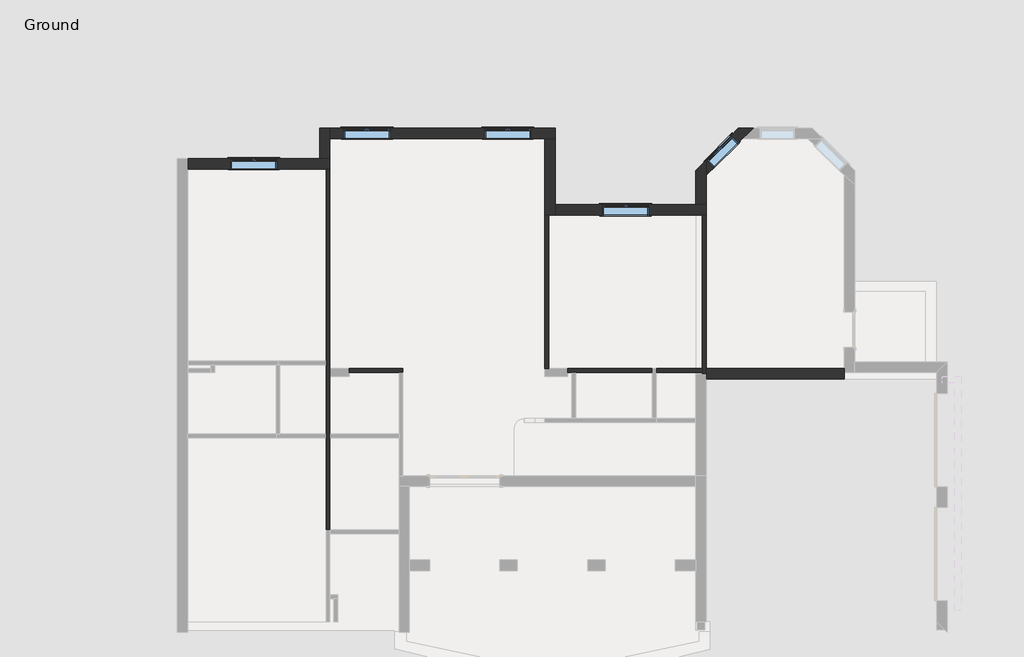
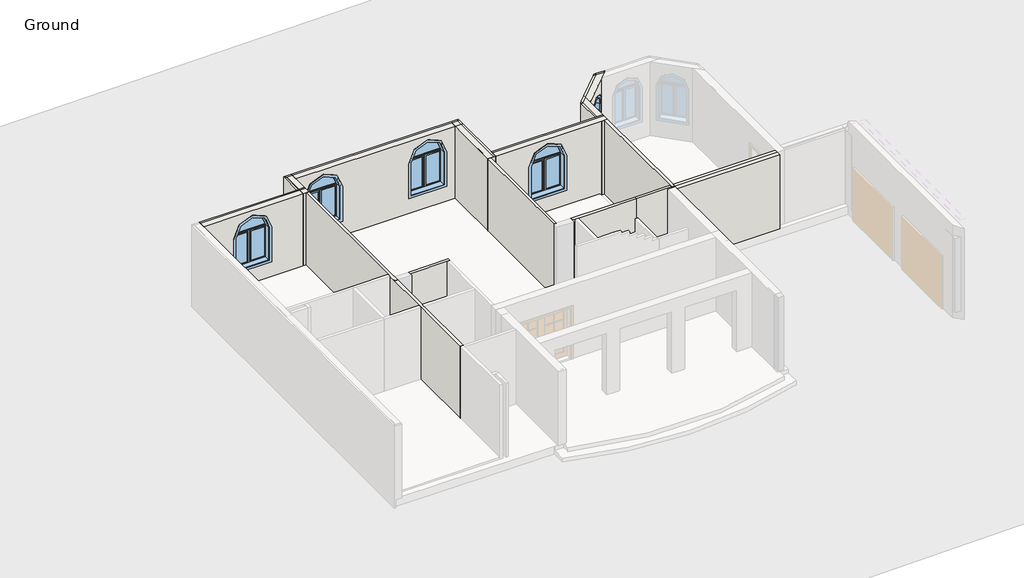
# One storey, part 2 of 3: 14 walls, 5 windows.
"""IFC4 building model written with IfcOpenShell, lengths in millimetres."""

from ifc_helpers import new_model, si_unit, frame, origin, origin_with_axes, place, context, project, spatial, polyline, circle_curve, ellipse_curve, outline, extrude, faceted_brep, transform, mapped, element, save
from ifc_brep_helpers import plane_surface, revolved_surface, advanced_brep
from components import window_0915_x_1220mm_3bb93231, window_1220_x_1220mm_cc1a8abd

model = new_model("IFC4")

# Units and contexts
model_context = context("Model", 3, world=origin())
ifc_project = project(units=[si_unit("LENGTHUNIT", "METRE", prefix="MILLI")], contexts=[model_context])

# Site, building, storey
site = spatial("IfcSite", under=ifc_project)
building = spatial("IfcBuilding", under=site)
storey = spatial("IfcBuildingStorey", under=building, Name="Ground", Elevation=0.0)

# Walls
placement = place(None, origin())
element("IfcWall", 1, ObjectType="Generic - 270 mm", at=placement, inside=storey, context=model_context, shape_type="AdvancedBrep", body=[
    advanced_brep(
    [(-7617.081946, 5504.8340505, 0.0), (-4017.081946, 5504.8340505, 0.0), (-3917.081946, 5504.8340505, 0.0), (-3917.081946, 5504.8340505, 2750.0), (-4017.081946, 5504.8340505, 2750.0), (-7617.081946, 5504.8340505, 2750.0), (-5292.081946, 5504.8340505, 1919.05), (-5292.081946, 5504.8340505, 680.0), (-6512.081946, 5504.8340505, 680.0), (-6512.081946, 5504.8340505, 1919.05), (-7617.081946, 5774.8340505, 2750.0), (-4187.081946, 5774.8340505, 2750.0), (-3917.081946, 5774.8340505, 2750.0), (-3917.081946, 5774.8340505, 0.0), (-4132.081946, 5774.8340505, 0.0), (-4132.081946, 5774.8340505, -300.0), (-4187.081946, 5774.8340505, -300.0), (-7832.081946, 5774.8340505, -300.0), (-7832.081946, 5774.8340505, 0.0), (-7617.081946, 5774.8340505, 0.0), (-5292.081946, 5774.8340505, 680.0), (-5292.081946, 5774.8340505, 1919.05), (-6512.081946, 5774.8340505, 1919.05), (-6512.081946, 5774.8340505, 680.0), (-7617.081946, 5719.8340505, 2750.0), (-7617.081946, 5719.8340505, 0.0), (-3917.081946, 5719.8340505, 2750.0), (-4132.081946, 5719.8340505, 2750.0), (-4132.081946, 5719.8340505, 0.0), (-7832.081946, 5719.8340505, 0.0), (-7832.081946, 5719.8340505, -300.0), (-4132.081946, 5719.8340505, -300.0)],
    [
        (0, 1),
        (1, 2),
        (2, 3),
        (3, 4),
        (4, 5),
        (5, 0),
        (6, 7),
        (7, 8),
        (8, 9),
        (9, 6, circle_curve(frame((-5902.081946, 5504.8340505, 1919.05), z_axis=(0.0, 1.0, 0.0), x_axis=(1.0, 0.0, 0.0)), 610.0)),
        (10, 11),
        (11, 12),
        (12, 13),
        (13, 14),
        (14, 15),
        (15, 16),
        (16, 17),
        (17, 18),
        (18, 19),
        (19, 10),
        (20, 21),
        (21, 22, circle_curve(frame((-5902.081946, 5774.8340505, 1919.05), z_axis=(0.0, -1.0, 0.0), x_axis=(1.0, 0.0, 0.0)), 610.0)),
        (22, 23),
        (23, 20),
        (5, 24),
        (24, 10),
        (19, 25),
        (25, 0),
        (2, 13),
        (12, 26),
        (26, 3),
        (24, 27),
        (27, 26),
        (25, 28),
        (28, 14),
        (25, 29),
        (29, 30),
        (30, 31),
        (31, 28),
        (30, 17),
        (15, 31),
        (18, 29),
        (6, 21),
        (20, 7),
        (23, 8),
        (22, 9),
    ],
    [
        plane_surface(frame((-7887.081946, 5504.8340505, 0.0), z_axis=(0.0, -1.0, 0.0), x_axis=(1.0, 0.0, 0.0))),
        plane_surface(frame((-7887.081946, 5774.8340505, 0.0), z_axis=(0.0, 1.0, 0.0), x_axis=(-1.0, 0.0, 0.0))),
        plane_surface(frame((-7617.081946, -6565.1659495, 0.0), z_axis=(-1.0, 0.0, 0.0), x_axis=(0.0, 1.0, 0.0))),
        plane_surface(frame((-3917.081946, 5774.8340505, 0.0), z_axis=(1.0, 0.0, 0.0), x_axis=(0.0, 1.0, 0.0))),
        plane_surface(frame((-4052.081946, 5504.8340505, 2750.0), z_axis=(0.0, 0.0, 1.0), x_axis=(0.0, 1.0, 0.0))),
        plane_surface(frame((-7832.081946, 5719.8340505, 2750.0), z_axis=(0.0, 0.0, 1.0), x_axis=(1.0, 0.0, 0.0))),
        plane_surface(frame((-7752.081946, 5504.8340505, 0.0), z_axis=(0.0, 0.0, -1.0), x_axis=(0.0, 1.0, 0.0))),
        plane_surface(frame((-7752.081946, 5719.8340505, 0.0), z_axis=(0.0, -1.0, 0.0), x_axis=(1.0, 0.0, 0.0))),
        plane_surface(frame((0.0, 0.0, -300.0), z_axis=(0.0, 0.0, -1.0), x_axis=(1.0, 0.0, 0.0))),
        plane_surface(frame((-7752.081946, 5719.8340505, 0.0), z_axis=(0.0, 0.0, 1.0), x_axis=(1.0, 0.0, 0.0))),
        plane_surface(frame((-7832.081946, 5719.8340505, -300.0), z_axis=(-1.0, 0.0, 0.0), x_axis=(0.0, 0.0, 1.0))),
        plane_surface(frame((-5292.081946, 7028.8340505, 1919.05), z_axis=(-1.0, 0.0, 0.0), x_axis=(0.0, -1.0, 0.0))),
        plane_surface(frame((-5292.081946, 7028.8340505, 680.0), z_axis=(0.0, 0.0, 1.0), x_axis=(0.0, -1.0, 0.0))),
        plane_surface(frame((-6512.081946, 7028.8340505, 680.0), z_axis=(1.0, 0.0, 0.0), x_axis=(0.0, -1.0, 0.0))),
        revolved_surface(polyline([(-5292.081946, 5774.8340505, 1919.05), (-5292.081946, 5504.8340505, 1919.05)]), (-5902.081946, 3980.8340505, 1919.05), (0.0, 1.0, 0.0)),
        plane_surface(frame((-4132.081946, 5719.8340505, -300.0), z_axis=(1.0, 0.0, 0.0), x_axis=(0.0, 0.0, 1.0))),
    ],
    [
        (0, [[1, 2, 3, 4, 5, 6], [7, 8, 9, 10]]),
        (1, [[11, 12, 13, 14, 15, 16, 17, 18, 19, 20], [21, 22, 23, 24]]),
        (2, [[-6, 25, 26, -20, 27, 28]]),
        (3, [[-3, 29, -13, 30, 31]]),
        (4, [[-12, -11, -26, 32, 33, -30]]),
        (5, [[-25, -5, -4, -31, -33, -32]]),
        (6, [[-2, -1, -28, 34, 35, -14, -29]]),
        (7, [[36, 37, 38, 39, -34]]),
        (8, [[40, -17, -16, 41, -38]]),
        (9, [[-36, -27, -19, 42]]),
        (10, [[-40, -37, -42, -18]]),
        (11, [[43, -21, 44, -7]]),
        (12, [[-44, -24, 45, -8]]),
        (13, [[-45, -23, 46, -9]]),
        (14, [[-43, -10, -46, -22]]),
        (15, [[-35, -39, -41, -15]]),
    ],
),
])
element("IfcWall", 2, ObjectType="Generic - 270 mm", at=placement, inside=storey, context=model_context, shape_type="Brep", body=[
    faceted_brep([(-3917.081946, 5774.8340505, 2750.0), (-3917.081946, 5774.8340505, 0.0), (-3917.081946, 6304.8340505, 0.0), (-3917.081946, 6519.8340505, 0.0), (-3917.081946, 6574.8340505, 0.0), (-3917.081946, 6574.8340505, 2750.0), (-3917.081946, 6519.8340505, 2750.0), (-3917.081946, 6304.8340505, 2750.0), (-4187.081946, 5774.8340505, -300.0), (-4187.081946, 5774.8340505, 2750.0), (-4187.081946, 6519.8340505, 2750.0), (-4187.081946, 6574.8340505, 2750.0), (-4187.081946, 6574.8340505, -300.0), (-4132.081946, 5774.8340505, 2750.0), (-4132.081946, 5774.8340505, -300.0), (-4132.081946, 5774.8340505, 0.0), (-4132.081946, 6574.8340505, 0.0), (-4132.081946, 6574.8340505, -300.0), (-4132.081946, 6574.8340505, 2750.0), (-4132.081946, 6519.8340505, 2750.0), (-4132.081946, 6519.8340505, 0.0), (-4132.081946, 6519.8340505, -300.0)], [[[0, 1, 2, 3, 4, 5, 6, 7]], [[8, 9, 10, 11, 12]], [[1, 0, 13, 9, 8, 14, 15]], [[5, 4, 16, 17, 12, 11, 18]], [[5, 18, 19, 6]], [[9, 13, 19, 10]], [[18, 11, 10, 19]], [[0, 7, 6, 19, 13]], [[16, 4, 3, 2, 1, 15, 20]], [[15, 14, 21, 17, 16, 20]], [[14, 8, 12, 17, 21]]]),
])
element("IfcWall", 3, ObjectType="Generic - 270 mm", at=placement, inside=storey, context=model_context, shape_type="AdvancedBrep", body=[
    advanced_brep(
    [(-3917.081946, 6304.8340505, 2750.0), (-3917.081946, 6304.8340505, 0.0), (1682.918054, 6304.8340505, 0.0), (1897.918054, 6304.8340505, 0.0), (1952.918054, 6304.8340505, 0.0), (1952.918054, 6304.8340505, 2750.0), (1897.918054, 6304.8340505, 2750.0), (1682.918054, 6304.8340505, 2750.0), (1327.918054, 6304.8340505, 1919.05), (1327.918054, 6304.8340505, 680.0), (107.918054, 6304.8340505, 680.0), (107.918054, 6304.8340505, 1919.05), (-2342.081946, 6304.8340505, 1919.05), (-2342.081946, 6304.8340505, 680.0), (-3562.081946, 6304.8340505, 680.0), (-3562.081946, 6304.8340505, 1919.05), (1952.918054, 6574.8340505, 2750.0), (1952.918054, 6574.8340505, -300.0), (-4132.081946, 6574.8340505, -300.0), (-4132.081946, 6574.8340505, 0.0), (-3917.081946, 6574.8340505, 0.0), (-3917.081946, 6574.8340505, 2750.0), (1897.918054, 6574.8340505, 2750.0), (1327.918054, 6574.8340505, 680.0), (1327.918054, 6574.8340505, 1919.05), (107.918054, 6574.8340505, 1919.05), (107.918054, 6574.8340505, 680.0), (-2342.081946, 6574.8340505, 680.0), (-2342.081946, 6574.8340505, 1919.05), (-3562.081946, 6574.8340505, 1919.05), (-3562.081946, 6574.8340505, 680.0), (-3917.081946, 6519.8340505, 2750.0), (-3917.081946, 6519.8340505, 0.0), (1952.918054, 6519.8340505, 0.0), (1952.918054, 6519.8340505, -300.0), (1952.918054, 6519.8340505, 2750.0), (1897.918054, 6519.8340505, 2750.0), (1897.918054, 6519.8340505, 0.0), (-4132.081946, 6519.8340505, 0.0), (-4132.081946, 6519.8340505, -300.0), (1897.918054, 6519.8340505, -300.0)],
    [
        (0, 1),
        (1, 2),
        (2, 3),
        (3, 4),
        (4, 5),
        (5, 6),
        (6, 7),
        (7, 0),
        (8, 9),
        (9, 10),
        (10, 11),
        (11, 8, circle_curve(frame((717.918054, 6304.8340505, 1919.05), z_axis=(0.0, 1.0, 0.0), x_axis=(1.0, 0.0, 0.0)), 610.0)),
        (12, 13),
        (13, 14),
        (14, 15),
        (15, 12, circle_curve(frame((-2952.081946, 6304.8340505, 1919.05), z_axis=(0.0, 1.0, 0.0), x_axis=(1.0, 0.0, 0.0)), 610.0)),
        (16, 17),
        (17, 18),
        (18, 19),
        (19, 20),
        (20, 21),
        (21, 22),
        (22, 16),
        (23, 24),
        (24, 25, circle_curve(frame((717.918054, 6574.8340505, 1919.05), z_axis=(0.0, -1.0, 0.0), x_axis=(1.0, 0.0, 0.0)), 610.0)),
        (25, 26),
        (26, 23),
        (27, 28),
        (28, 29, circle_curve(frame((-2952.081946, 6574.8340505, 1919.05), z_axis=(0.0, -1.0, 0.0), x_axis=(1.0, 0.0, 0.0)), 610.0)),
        (29, 30),
        (30, 27),
        (0, 31),
        (31, 21),
        (20, 32),
        (32, 1),
        (4, 33),
        (33, 34),
        (34, 17),
        (16, 35),
        (35, 5),
        (35, 36),
        (36, 6),
        (31, 36),
        (36, 22),
        (32, 37),
        (37, 33),
        (32, 38),
        (38, 39),
        (39, 40),
        (40, 34),
        (39, 18),
        (19, 38),
        (8, 24),
        (23, 9),
        (26, 10),
        (25, 11),
        (12, 28),
        (27, 13),
        (30, 14),
        (29, 15),
    ],
    [
        plane_surface(frame((-4187.081946, 6304.8340505, 0.0), z_axis=(0.0, -1.0, 0.0), x_axis=(1.0, 0.0, 0.0))),
        plane_surface(frame((-4187.081946, 6574.8340505, 0.0), z_axis=(0.0, 1.0, 0.0), x_axis=(-1.0, 0.0, 0.0))),
        plane_surface(frame((-3917.081946, 5774.8340505, 0.0), z_axis=(-1.0, 0.0, 0.0), x_axis=(0.0, 1.0, 0.0))),
        plane_surface(frame((1952.918054, 6574.8340505, 0.0), z_axis=(1.0, 0.0, 0.0), x_axis=(0.0, 1.0, 0.0))),
        plane_surface(frame((1817.918054, 6304.8340505, 2750.0), z_axis=(0.0, 0.0, 1.0), x_axis=(0.0, 1.0, 0.0))),
        plane_surface(frame((-7832.081946, 5719.8340505, 2750.0), z_axis=(0.0, 0.0, 1.0), x_axis=(1.0, 0.0, 0.0))),
        plane_surface(frame((-4052.081946, 6304.8340505, 0.0), z_axis=(0.0, 0.0, -1.0), x_axis=(0.0, 1.0, 0.0))),
        plane_surface(frame((-4052.081946, 6519.8340505, 0.0), z_axis=(0.0, -1.0, 0.0), x_axis=(1.0, 0.0, 0.0))),
        plane_surface(frame((0.0, 0.0, -300.0), z_axis=(0.0, 0.0, -1.0), x_axis=(1.0, 0.0, 0.0))),
        plane_surface(frame((-4052.081946, 6519.8340505, 0.0), z_axis=(0.0, 0.0, 1.0), x_axis=(1.0, 0.0, 0.0))),
        plane_surface(frame((-4132.081946, 6519.8340505, -300.0), z_axis=(-1.0, 0.0, 0.0), x_axis=(0.0, 0.0, 1.0))),
        plane_surface(frame((1327.918054, 7828.8340505, 1919.05), z_axis=(-1.0, 0.0, 0.0), x_axis=(0.0, -1.0, 0.0))),
        plane_surface(frame((1327.918054, 7828.8340505, 680.0), z_axis=(0.0, 0.0, 1.0), x_axis=(0.0, -1.0, 0.0))),
        plane_surface(frame((107.918054, 7828.8340505, 680.0), z_axis=(1.0, 0.0, 0.0), x_axis=(0.0, -1.0, 0.0))),
        revolved_surface(polyline([(1327.918054, 6574.8340505, 1919.05), (1327.918054, 6304.8340505, 1919.05)]), (717.918054, 4780.8340505, 1919.05), (0.0, 1.0, 0.0)),
        plane_surface(frame((-2342.081946, 7828.8340505, 1919.05), z_axis=(-1.0, 0.0, 0.0), x_axis=(0.0, -1.0, 0.0))),
        plane_surface(frame((-2342.081946, 7828.8340505, 680.0), z_axis=(0.0, 0.0, 1.0), x_axis=(0.0, -1.0, 0.0))),
        plane_surface(frame((-3562.081946, 7828.8340505, 680.0), z_axis=(1.0, 0.0, 0.0), x_axis=(0.0, -1.0, 0.0))),
        revolved_surface(polyline([(-2342.081946, 6574.8340505, 1919.05), (-2342.081946, 6304.8340505, 1919.05)]), (-2952.081946, 4780.8340505, 1919.05), (0.0, 1.0, 0.0)),
    ],
    [
        (0, [[1, 2, 3, 4, 5, 6, 7, 8], [9, 10, 11, 12], [13, 14, 15, 16]]),
        (1, [[17, 18, 19, 20, 21, 22, 23], [24, 25, 26, 27], [28, 29, 30, 31]]),
        (2, [[-1, 32, 33, -21, 34, 35]]),
        (3, [[-5, 36, 37, 38, -17, 39, 40]]),
        (4, [[-40, 41, 42, -6]]),
        (4, [[-33, 43, 44, -22]]),
        (4, [[-39, -23, -44, -41]]),
        (5, [[-8, -7, -42, -43, -32]]),
        (6, [[-36, -4, -3, -2, -35, 45, 46]]),
        (7, [[-37, -46, -45, 47, 48, 49, 50]]),
        (8, [[-38, -50, -49, 51, -18]]),
        (9, [[-47, -34, -20, 52]]),
        (10, [[-51, -48, -52, -19]]),
        (11, [[53, -24, 54, -9]]),
        (12, [[-54, -27, 55, -10]]),
        (13, [[-55, -26, 56, -11]]),
        (14, [[-53, -12, -56, -25]]),
        (15, [[57, -28, 58, -13]]),
        (16, [[-58, -31, 59, -14]]),
        (17, [[-59, -30, 60, -15]]),
        (18, [[-57, -16, -60, -29]]),
    ],
),
])
element("IfcWall", 4, ObjectType="Generic - 270 mm", at=placement, inside=storey, context=model_context, shape_type="Brep", body=[
    faceted_brep([(1682.918054, 6304.8340505, 0.0), (1682.918054, 4304.8340505, 0.0), (1682.918054, 4304.8340505, 2750.0), (1682.918054, 6304.8340505, 2750.0), (1952.918054, 6304.8340505, 2750.0), (1952.918054, 4574.8340505, 2750.0), (1952.918054, 4519.8340505, 2750.0), (1952.918054, 4304.8340505, 2750.0), (1952.918054, 4304.8340505, 0.0), (1952.918054, 4519.8340505, 0.0), (1952.918054, 4519.8340505, -300.0), (1952.918054, 4574.8340505, -300.0), (1952.918054, 6519.8340505, -300.0), (1952.918054, 6519.8340505, 0.0), (1952.918054, 6304.8340505, 0.0), (1897.918054, 6304.8340505, 2750.0), (1897.918054, 6304.8340505, 0.0), (1782.918054, 4304.8340505, 0.0), (1897.918054, 4304.8340505, 2750.0), (1782.918054, 4304.8340505, 2750.0), (1897.918054, 4519.8340505, 2750.0), (1897.918054, 4519.8340505, 0.0), (1897.918054, 6519.8340505, 0.0), (1897.918054, 6519.8340505, -300.0), (1897.918054, 4519.8340505, -300.0)], [[[0, 1, 2, 3]], [[4, 5, 6, 7, 8, 9, 10, 11, 12, 13, 14]], [[0, 3, 15, 4, 14, 16]], [[2, 1, 17, 8, 7, 18, 19]], [[7, 6, 5, 4, 15, 20, 18]], [[15, 3, 2, 19, 18, 20]], [[1, 0, 16, 21, 9, 8, 17]], [[16, 22, 23, 24, 21]], [[23, 12, 11, 10, 24]], [[22, 16, 14, 13]], [[12, 23, 22, 13]], [[9, 21, 24, 10]]]),
])
element("IfcWall", 5, ObjectType="Generic - 270 mm", at=placement, inside=storey, context=model_context, shape_type="AdvancedBrep", body=[
    advanced_brep(
    [(1952.918054, 4304.8340505, 0.0), (5781.043054, 4304.8340505, 0.0), (5881.043054, 4304.8340505, 0.0), (5882.918054, 4304.8340505, 0.0), (5882.918054, 4304.8340505, 2750.0), (5881.043054, 4304.8340505, 2750.0), (5781.043054, 4304.8340505, 2750.0), (1952.918054, 4304.8340505, 2750.0), (4392.918054, 4304.8340505, 1919.05), (4392.918054, 4304.8340505, 680.0), (3172.918054, 4304.8340505, 680.0), (3172.918054, 4304.8340505, 1919.05), (1952.918054, 4574.8340505, 2750.0), (5612.918054, 4574.8340505, 2750.0), (5882.918054, 4574.8340505, 2750.0), (5882.918054, 4574.8340505, 0.0), (5667.918054, 4574.8340505, 0.0), (5667.918054, 4574.8340505, -300.0), (5612.918054, 4574.8340505, -300.0), (1952.918054, 4574.8340505, -300.0), (4392.918054, 4574.8340505, 680.0), (4392.918054, 4574.8340505, 1919.05), (3172.918054, 4574.8340505, 1919.05), (3172.918054, 4574.8340505, 680.0), (1952.918054, 4519.8340505, 2750.0), (1952.918054, 4519.8340505, -300.0), (1952.918054, 4519.8340505, 0.0), (5882.918054, 4519.8340505, 2750.0), (5667.918054, 4519.8340505, 2750.0), (5667.918054, 4519.8340505, 0.0), (5667.918054, 4519.8340505, -300.0)],
    [
        (0, 1),
        (1, 2),
        (2, 3),
        (3, 4),
        (4, 5),
        (5, 6),
        (6, 7),
        (7, 0),
        (8, 9),
        (9, 10),
        (10, 11),
        (11, 8, circle_curve(frame((3782.918054, 4304.8340505, 1919.05), z_axis=(0.0, 1.0, 0.0), x_axis=(1.0, 0.0, 0.0)), 610.0)),
        (12, 13),
        (13, 14),
        (14, 15),
        (15, 16),
        (16, 17),
        (17, 18),
        (18, 19),
        (19, 12),
        (20, 21),
        (21, 22, circle_curve(frame((3782.918054, 4574.8340505, 1919.05), z_axis=(0.0, -1.0, 0.0), x_axis=(1.0, 0.0, 0.0)), 610.0)),
        (22, 23),
        (23, 20),
        (7, 24),
        (24, 12),
        (19, 25),
        (25, 26),
        (26, 0),
        (3, 15),
        (14, 27),
        (27, 4),
        (24, 28),
        (28, 27),
        (26, 29),
        (29, 16),
        (25, 30),
        (30, 29),
        (17, 30),
        (8, 21),
        (20, 9),
        (23, 10),
        (22, 11),
    ],
    [
        plane_surface(frame((1952.918054, 4304.8340505, 0.0), z_axis=(0.0, -1.0, 0.0), x_axis=(1.0, 0.0, 0.0))),
        plane_surface(frame((1952.918054, 4574.8340505, 0.0), z_axis=(0.0, 1.0, 0.0), x_axis=(-1.0, 0.0, 0.0))),
        plane_surface(frame((1952.918054, 6574.8340505, 0.0), z_axis=(-1.0, 0.0, 0.0), x_axis=(0.0, 1.0, 0.0))),
        plane_surface(frame((5882.918054, 4574.8340505, 0.0), z_axis=(1.0, 0.0, 0.0), x_axis=(0.0, 1.0, 0.0))),
        plane_surface(frame((5747.918054, 4304.8340505, 2750.0), z_axis=(0.0, 0.0, 1.0), x_axis=(0.0, 1.0, 0.0))),
        plane_surface(frame((-7832.081946, 5719.8340505, 2750.0), z_axis=(0.0, 0.0, 1.0), x_axis=(1.0, 0.0, 0.0))),
        plane_surface(frame((1817.918054, 4304.8340505, 0.0), z_axis=(0.0, 0.0, -1.0), x_axis=(0.0, 1.0, 0.0))),
        plane_surface(frame((1817.918054, 4519.8340505, 0.0), z_axis=(0.0, -1.0, 0.0), x_axis=(1.0, 0.0, 0.0))),
        plane_surface(frame((0.0, 0.0, -300.0), z_axis=(0.0, 0.0, -1.0), x_axis=(1.0, 0.0, 0.0))),
        plane_surface(frame((4392.918054, 5828.8340505, 1919.05), z_axis=(-1.0, 0.0, 0.0), x_axis=(0.0, -1.0, 0.0))),
        plane_surface(frame((4392.918054, 5828.8340505, 680.0), z_axis=(0.0, 0.0, 1.0), x_axis=(0.0, -1.0, 0.0))),
        plane_surface(frame((3172.918054, 5828.8340505, 680.0), z_axis=(1.0, 0.0, 0.0), x_axis=(0.0, -1.0, 0.0))),
        revolved_surface(polyline([(4392.918054, 4574.8340505, 1919.05), (4392.918054, 4304.8340505, 1919.05)]), (3782.918054, 2780.8340505, 1919.05), (0.0, 1.0, 0.0)),
        plane_surface(frame((5667.918054, 4519.8340505, -300.0), z_axis=(1.0, 0.0, 0.0), x_axis=(0.0, 0.0, 1.0))),
    ],
    [
        (0, [[1, 2, 3, 4, 5, 6, 7, 8], [9, 10, 11, 12]]),
        (1, [[13, 14, 15, 16, 17, 18, 19, 20], [21, 22, 23, 24]]),
        (2, [[-8, 25, 26, -20, 27, 28, 29]]),
        (3, [[-4, 30, -15, 31, 32]]),
        (4, [[-14, -13, -26, 33, 34, -31]]),
        (5, [[-25, -7, -6, -5, -32, -34, -33]]),
        (6, [[-3, -2, -1, -29, 35, 36, -16, -30]]),
        (7, [[-28, 37, 38, -35]]),
        (8, [[-27, -19, -18, 39, -37]]),
        (9, [[40, -21, 41, -9]]),
        (10, [[-41, -24, 42, -10]]),
        (11, [[-42, -23, 43, -11]]),
        (12, [[-40, -12, -43, -22]]),
        (13, [[-36, -38, -39, -17]]),
    ],
),
])
element("IfcWall", 6, ObjectType="Generic - 270 mm", at=placement, inside=storey, context=model_context, shape_type="AdvancedBrep", body=[
    advanced_brep(
    [(5882.918054, 4574.8340505, 2750.0), (5882.918054, 4574.8340505, 0.0), (5882.918054, 5353.362188, 0.0), (5882.918054, 5657.4181039, 0.0), (5882.918054, 5735.1998498, 0.0), (5882.918054, 5735.1998498, 680.0), (5882.918054, 5732.8594181, 680.0), (5882.918054, 5732.8594181, 1919.05), (5882.918054, 5735.1998498, 1957.928359), (5882.918054, 5735.1998498, 2750.0), (5882.918054, 5657.4181039, 2750.0), (5882.918054, 5353.362188, 2750.0), (5612.918054, 4574.8340505, -300.0), (5612.918054, 4574.8340505, 2750.0), (5612.918054, 5387.4181039, 2750.0), (5612.918054, 5465.1998498, 2750.0), (5612.918054, 5465.1998498, -300.0), (5667.918054, 4574.8340505, 2750.0), (5667.918054, 4574.8340505, -300.0), (5667.918054, 4574.8340505, 0.0), (5667.918054, 5520.1998498, 2750.0), (5881.7478382, 5734.029634, 1919.05), (5881.7478382, 5734.029634, 680.0), (5667.918054, 5520.1998498, 0.0), (5667.918054, 5520.1998498, -300.0), (5667.918054, 5442.4181039, 2750.0), (5667.918054, 5442.4181039, 0.0), (5667.918054, 5442.4181039, -300.0)],
    [
        (0, 1),
        (1, 2),
        (2, 3),
        (3, 4),
        (4, 5),
        (5, 6),
        (6, 7),
        (7, 8, ellipse_curve(frame((5882.918054, 6379.8621229, 1919.05), z_axis=(-1.0, 0.0, 0.0), x_axis=(0.0, 1.0, 0.0)), 647.0027048, 457.5)),
        (8, 9),
        (9, 10),
        (10, 11),
        (11, 0),
        (12, 13),
        (13, 14),
        (14, 15),
        (15, 16),
        (16, 12),
        (0, 17),
        (17, 13),
        (12, 18),
        (18, 19),
        (19, 1),
        (15, 20),
        (20, 9),
        (8, 21, circle_curve(frame((6205.2491906, 6057.5309864, 1919.05), z_axis=(0.7071067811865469, -0.7071067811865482, 0.0), x_axis=(0.7071067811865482, 0.7071067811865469, 0.0)), 457.5)),
        (21, 22),
        (22, 5),
        (4, 23),
        (23, 24),
        (24, 16),
        (20, 25),
        (25, 10),
        (17, 25),
        (25, 14),
        (19, 26),
        (26, 23),
        (18, 27),
        (27, 24),
        (22, 6),
        (21, 7),
    ],
    [
        plane_surface(frame((5882.918054, 4574.8340505, 0.0), z_axis=(1.0, 0.0, 0.0), x_axis=(0.0, 1.0, 0.0))),
        plane_surface(frame((5612.918054, 4574.8340505, 0.0), z_axis=(-1.0, 0.0, 0.0), x_axis=(0.0, -1.0, 0.0))),
        plane_surface(frame((1952.918054, 4574.8340505, 0.0), z_axis=(0.0, -1.0, 0.0), x_axis=(-1.0, 0.0, 0.0))),
        plane_surface(frame((5612.918054, 5465.1998498, 0.0), z_axis=(-0.7071067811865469, 0.7071067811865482, 0.0), x_axis=(-0.7071067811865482, -0.7071067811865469, 0.0))),
        plane_surface(frame((5882.918054, 5409.2810189, 2750.0), z_axis=(0.0, 0.0, 1.0), x_axis=(-1.0, 0.0, 0.0))),
        plane_surface(frame((-7832.081946, 5719.8340505, 2750.0), z_axis=(0.0, 0.0, 1.0), x_axis=(1.0, 0.0, 0.0))),
        plane_surface(frame((5882.918054, 4439.8340505, 0.0), z_axis=(0.0, 0.0, -1.0), x_axis=(-1.0, 0.0, 0.0))),
        plane_surface(frame((5667.918054, 4439.8340505, 0.0), z_axis=(1.0, 0.0, 0.0), x_axis=(0.0, 1.0, 0.0))),
        plane_surface(frame((0.0, 0.0, -300.0), z_axis=(0.0, 0.0, -1.0), x_axis=(1.0, 0.0, 0.0))),
        plane_surface(frame((6528.750543, 6381.0323388, 680.0), z_axis=(0.0, 0.0, 1.0), x_axis=(0.7071067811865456, -0.7071067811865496, 0.0))),
        plane_surface(frame((5881.7478382, 5734.029634, 680.0), z_axis=(0.7071067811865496, 0.7071067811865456, 0.0), x_axis=(0.7071067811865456, -0.7071067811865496, 0.0))),
        revolved_surface(polyline([(5882.918053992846, 7026.864827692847, 1919.05), (6529.920758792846, 6379.862122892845, 1919.05)]), (6396.1680215, 5866.6121554, 1919.05), (-0.7071067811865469, 0.7071067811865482, 0.0)),
    ],
    [
        (0, [[1, 2, 3, 4, 5, 6, 7, 8, 9, 10, 11, 12]]),
        (1, [[13, 14, 15, 16, 17]]),
        (2, [[-1, 18, 19, -13, 20, 21, 22]]),
        (3, [[-16, 23, 24, -9, 25, 26, 27, -5, 28, 29, 30]]),
        (4, [[-24, 31, 32, -10]]),
        (4, [[-19, 33, 34, -14]]),
        (4, [[-23, -15, -34, -31]]),
        (5, [[-12, -11, -32, -33, -18]]),
        (6, [[-28, -4, -3, -2, -22, 35, 36]]),
        (7, [[-21, 37, 38, -29, -36, -35]]),
        (8, [[-20, -17, -30, -38, -37]]),
        (9, [[39, -6, -27]]),
        (10, [[-39, -26, 40, -7]]),
        (11, [[-40, -25, -8]]),
    ],
),
])
element("IfcWall", 7, ObjectType="Generic - 270 mm", at=placement, inside=storey, context=model_context, shape_type="AdvancedBrep", body=[
    advanced_brep(
    [(5882.918054, 5353.362188, 2750.0), (5882.918054, 5353.362188, 0.0), (6834.3899166, 6304.8340505, 0.0), (7049.3899166, 6519.8340505, 0.0), (7104.3899166, 6574.8340505, 0.0), (7104.3899166, 6574.8340505, 2750.0), (7049.3899166, 6519.8340505, 2750.0), (6834.3899166, 6304.8340505, 2750.0), (6719.6693739, 6190.1135078, 1919.05), (6719.6693739, 6190.1135078, 680.0), (6072.6666691, 5543.1108031, 680.0), (6072.6666691, 5543.1108031, 1919.05), (6722.5522547, 6574.8340505, 2750.0), (6722.5522547, 6574.8340505, -300.0), (5667.918054, 5520.1998498, -300.0), (5667.918054, 5520.1998498, 0.0), (5882.918054, 5735.1998498, 0.0), (5882.918054, 5735.1998498, 680.0), (6528.750543, 6381.0323388, 680.0), (6528.750543, 6381.0323388, 1919.05), (5882.918054, 5735.1998498, 1957.928359), (5882.918054, 5735.1998498, 2750.0), (6667.5522547, 6519.8340505, 2750.0), (5882.918054, 5657.4181039, 2750.0), (5882.918054, 5732.8594181, 1919.05), (5882.918054, 5732.8594181, 680.0), (5882.918054, 5657.4181039, 0.0), (6800.3340007, 6574.8340505, 0.0), (6800.3340007, 6574.8340505, -300.0), (6800.3340007, 6574.8340505, 2750.0), (6745.3340007, 6519.8340505, 2750.0), (6745.3340007, 6519.8340505, 0.0), (5667.918054, 5442.4181039, 0.0), (5667.918054, 5442.4181039, -300.0), (6745.3340007, 6519.8340505, -300.0)],
    [
        (0, 1),
        (1, 2),
        (2, 3),
        (3, 4),
        (4, 5),
        (5, 6),
        (6, 7),
        (7, 0),
        (8, 9),
        (9, 10),
        (10, 11),
        (11, 8, circle_curve(frame((6396.1680215, 5866.6121554, 1919.05), z_axis=(-0.7071067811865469, 0.7071067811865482, 0.0), x_axis=(0.7071067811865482, 0.7071067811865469, 0.0)), 457.5)),
        (12, 13),
        (13, 14),
        (14, 15),
        (15, 16),
        (16, 17),
        (17, 18),
        (18, 19),
        (19, 20, circle_curve(frame((6205.2491906, 6057.5309864, 1919.05), z_axis=(0.7071067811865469, -0.7071067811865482, 0.0), x_axis=(0.7071067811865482, 0.7071067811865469, 0.0)), 457.5)),
        (20, 21),
        (21, 22),
        (22, 12),
        (0, 23),
        (23, 21),
        (20, 24, ellipse_curve(frame((5882.918054, 6379.8621229, 1919.05), z_axis=(1.0, 0.0, 0.0), x_axis=(0.0, 1.0, 0.0)), 647.0027048, 457.5)),
        (24, 25),
        (25, 17),
        (16, 26),
        (26, 1),
        (4, 27),
        (27, 28),
        (28, 13),
        (12, 29),
        (29, 5),
        (29, 30),
        (30, 6),
        (23, 30),
        (30, 22),
        (26, 31),
        (31, 27),
        (26, 32),
        (32, 33),
        (33, 34),
        (34, 28),
        (33, 14),
        (15, 32),
        (8, 19),
        (18, 9),
        (25, 10),
        (24, 11),
    ],
    [
        plane_surface(frame((5803.8368849, 5274.2810189, 0.0), z_axis=(0.7071067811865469, -0.7071067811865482, 0.0), x_axis=(0.7071067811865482, 0.7071067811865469, 0.0))),
        plane_surface(frame((5612.918054, 5465.1998498, 0.0), z_axis=(-0.7071067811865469, 0.7071067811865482, 0.0), x_axis=(-0.7071067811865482, -0.7071067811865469, 0.0))),
        plane_surface(frame((5882.918054, 4574.8340505, 0.0), z_axis=(-1.0, 0.0, 0.0), x_axis=(0.0, 1.0, 0.0))),
        plane_surface(frame((6722.5522547, 6574.8340505, 0.0), z_axis=(0.0, 1.0, 0.0), x_axis=(-1.0, 0.0, 0.0))),
        plane_surface(frame((6873.9305011, 6344.3746351, 2750.0), z_axis=(0.0, 0.0, 1.0000000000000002), x_axis=(-0.7071067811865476, 0.7071067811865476, 0.0))),
        plane_surface(frame((-7832.081946, 5719.8340505, 2750.0), z_axis=(0.0, 0.0, 1.0), x_axis=(1.0, 0.0, 0.0))),
        plane_surface(frame((5843.3774695, 5313.8216034, 0.0), z_axis=(0.0, 0.0, -1.0000000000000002), x_axis=(-0.7071067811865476, 0.7071067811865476, 0.0))),
        plane_surface(frame((5691.3495115, 5465.8495614, 0.0), z_axis=(0.7071067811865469, -0.7071067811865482, 0.0), x_axis=(0.7071067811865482, 0.7071067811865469, 0.0))),
        plane_surface(frame((0.0, 0.0, -300.0), z_axis=(0.0, 0.0, -1.0), x_axis=(1.0, 0.0, 0.0))),
        plane_surface(frame((5691.3495115, 5465.8495614, 0.0), z_axis=(0.0, 0.0, 1.0), x_axis=(0.7071067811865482, 0.7071067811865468, 0.0))),
        plane_surface(frame((5667.918054, 5442.4181039, -300.0), z_axis=(-1.0, 0.0, 0.0), x_axis=(0.0, 0.0, 1.0))),
        plane_surface(frame((5642.0386393, 7267.7442424, 1919.05), z_axis=(-0.7071067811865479, -0.7071067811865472, 0.0), x_axis=(0.7071067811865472, -0.7071067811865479, 0.0))),
        plane_surface(frame((5642.0386393, 7267.7442424, 680.0), z_axis=(0.0, 0.0, 1.0000000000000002), x_axis=(0.7071067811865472, -0.7071067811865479, 0.0))),
        plane_surface(frame((4995.0359346, 6620.7415376, 680.0), z_axis=(0.7071067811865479, 0.7071067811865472, 0.0), x_axis=(0.7071067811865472, -0.7071067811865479, 0.0))),
        revolved_surface(polyline([(5882.918053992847, 7026.864827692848, 1919.05), (6719.669373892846, 6190.113507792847, 1919.05)]), (7473.798756, 4788.9814209, 1919.05), (-0.7071067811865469, 0.7071067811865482, 0.0)),
    ],
    [
        (0, [[1, 2, 3, 4, 5, 6, 7, 8], [9, 10, 11, 12]]),
        (1, [[13, 14, 15, 16, 17, 18, 19, 20, 21, 22, 23]]),
        (2, [[-1, 24, 25, -21, 26, 27, 28, -17, 29, 30]]),
        (3, [[-5, 31, 32, 33, -13, 34, 35]]),
        (4, [[-35, 36, 37, -6]]),
        (4, [[-25, 38, 39, -22]]),
        (4, [[-34, -23, -39, -36]]),
        (5, [[-8, -7, -37, -38, -24]]),
        (6, [[-31, -4, -3, -2, -30, 40, 41]]),
        (7, [[-32, -41, -40, 42, 43, 44, 45]]),
        (8, [[-33, -45, -44, 46, -14]]),
        (9, [[-42, -29, -16, 47]]),
        (10, [[-46, -43, -47, -15]]),
        (11, [[48, -19, 49, -9]]),
        (12, [[-49, -18, -28, 50, -10]]),
        (13, [[-50, -27, 51, -11]]),
        (14, [[-48, -12, -51, -26, -20]]),
    ],
),
])
element("IfcWall", 8, ObjectType="Generic - 270 mm Brick on both sides", at=placement, inside=storey, context=model_context, shape_type="Brep", body=[
    faceted_brep([(9482.918054, 304.8340505, 0.0), (5881.043054, 304.8340505, 0.0), (5881.043054, 304.8340505, 2750.0), (9482.918054, 304.8340505, 2750.0), (9482.918054, 34.8340505, 0.0), (9482.918054, 34.8340505, 2750.0), (5881.043054, 34.8340505, 2750.0), (5881.043054, 34.8340505, 0.0), (5881.043054, 269.8340505, 0.0), (5881.043054, 169.8340505, 0.0), (5881.043054, 169.8340505, 2750.0), (5881.043054, 204.8340505, 2750.0), (9482.918054, 204.8340505, 2750.0), (9482.918054, 204.8340505, 0.0), (9482.918054, 269.8340505, 0.0)], [[[0, 1, 2, 3]], [[4, 5, 6, 7]], [[2, 1, 8, 9, 7, 6, 10, 11]], [[0, 3, 12, 5, 4, 13, 14]], [[11, 10, 6, 5, 12]], [[3, 2, 11, 12]], [[14, 13, 4, 7, 9, 8]], [[1, 0, 14, 8]]]),
])
element("IfcWall", 9, ObjectType="Interior - 100mm Partition (2-hr)", at=placement, inside=storey, context=model_context, shape_type="Brep", body=[
    faceted_brep([(4482.918054, 304.8340505, 0.0), (2282.918054, 304.8340505, 0.0), (2282.918054, 304.8340505, 2750.0), (4532.918054, 304.8340505, 2750.0), (4532.918054, 304.8340505, 2025.0), (4482.918054, 304.8340505, 2025.0), (4482.918054, 204.8340505, 0.0), (4482.918054, 204.8340505, 2025.0), (4532.918054, 204.8340505, 2025.0), (4532.918054, 204.8340505, 2750.0), (2482.918054, 204.8340505, 2750.0), (2382.918054, 204.8340505, 2750.0), (2282.918054, 204.8340505, 2750.0), (2282.918054, 204.8340505, 0.0), (2382.918054, 204.8340505, 0.0), (2482.918054, 204.8340505, 0.0)], [[[0, 1, 2, 3, 4, 5]], [[6, 7, 8, 9, 10, 11, 12, 13, 14, 15]], [[1, 0, 6, 15, 14, 13]], [[2, 1, 13, 12]], [[3, 2, 12, 11, 10, 9]], [[4, 3, 9, 8]], [[4, 8, 7, 5]], [[0, 5, 7, 6]]]),
])
element("IfcWall", 10, ObjectType="Interior -100mm Partition (1-hr)", at=placement, inside=storey, context=model_context, shape_type="Brep", body=[
    faceted_brep([(-4017.081946, 5504.8340505, 0.0), (-4017.081946, 504.8340505, 0.0), (-4017.081946, 404.8340505, 0.0), (-4017.081946, -1395.1659495, 0.0), (-4017.081946, -1495.1659495, 0.0), (-4017.081946, -3895.1659495, 0.0), (-4017.081946, -3895.1659495, 2750.0), (-4017.081946, -1495.1659495, 2750.0), (-4017.081946, -1395.1659495, 2750.0), (-4017.081946, 404.8340505, 2750.0), (-4017.081946, 504.8340505, 2750.0), (-4017.081946, 5504.8340505, 2750.0), (-3917.081946, 5504.8340505, 0.0), (-3917.081946, 5504.8340505, 2750.0), (-3917.081946, -1395.1659495, 2750.0), (-3917.081946, -1495.1659495, 2750.0), (-3917.081946, -3895.1659495, 2750.0), (-3917.081946, -3895.1659495, 0.0), (-3917.081946, -1495.1659495, 0.0), (-3917.081946, -1395.1659495, 0.0)], [[[0, 1, 2, 3, 4, 5, 6, 7, 8, 9, 10, 11]], [[12, 13, 14, 15, 16, 17, 18, 19]], [[5, 4, 3, 2, 1, 0, 12, 19, 18, 17]], [[0, 11, 13, 12]], [[6, 5, 17, 16]], [[11, 10, 9, 8, 7, 6, 16, 15, 14, 13]]]),
])
element("IfcWall", 11, ObjectType="Interior -100mm Partition (1-hr)", at=placement, inside=storey, context=model_context, shape_type="SweptSolid", body=[
    extrude(outline(polyline([(1682.918054, 304.8340505), (1682.918054, 4304.8340505), (1782.918054, 4304.8340505), (1782.918054, 304.8340505), (1682.918054, 304.8340505)])), origin_with_axes(), (0.0, 0.0, 1.0), 2750.0),
])
element("IfcWall", 12, ObjectType="Interior -100mm Partition (1-hr)", at=placement, inside=storey, context=model_context, shape_type="Brep", body=[
    faceted_brep([(-3417.081946, 204.8340505, 0.0), (-2117.081946, 204.8340505, 0.0), (-2017.081946, 204.8340505, 0.0), (-2017.081946, 204.8340505, 2750.0), (-2117.081946, 204.8340505, 2750.0), (-3417.081946, 204.8340505, 2750.0), (-3417.081946, 304.8340505, 0.0), (-3417.081946, 304.8340505, 2750.0), (-2017.081946, 304.8340505, 2750.0), (-2017.081946, 304.8340505, 0.0)], [[[0, 1, 2, 3, 4, 5]], [[6, 7, 8, 9]], [[2, 1, 0, 6, 9]], [[0, 5, 7, 6]], [[3, 2, 9, 8]], [[5, 4, 3, 8, 7]]]),
])
element("IfcWall", 13, ObjectType="Interior -100mm Partition (1-hr)", at=placement, inside=storey, context=model_context, shape_type="SweptSolid", body=[
    extrude(outline(polyline([(0.0, 4582.918054), (0.0, 5781.043054), (2750.0, 5781.043054), (2750.0, 4532.918054), (2025.0, 4532.918054), (2025.0, 4582.918054), (0.0, 4582.918054)])), frame((0.0, 204.8340505, 0.0), z_axis=(0.0, 1.0, 0.0), x_axis=(0.0, 0.0, 1.0)), (0.0, 0.0, 1.0), 100.0),
])
element("IfcWall", 14, ObjectType="Interior -100mm Partition (1-hr)", at=placement, inside=storey, context=model_context, shape_type="Brep", body=[
    faceted_brep([(5881.043054, 169.8340505, 0.0), (5881.043054, 304.8340505, 0.0), (5881.043054, 4304.8340505, 0.0), (5881.043054, 4304.8340505, 2750.0), (5881.043054, 304.8340505, 2750.0), (5881.043054, 204.8340505, 2750.0), (5881.043054, 169.8340505, 2750.0), (5781.043054, 169.8340505, 0.0), (5781.043054, 169.8340505, 2750.0), (5781.043054, 204.8340505, 2750.0), (5781.043054, 304.8340505, 2750.0), (5781.043054, 4304.8340505, 2750.0), (5781.043054, 4304.8340505, 0.0), (5781.043054, 304.8340505, 0.0), (5781.043054, 204.8340505, 0.0)], [[[0, 1, 2, 3, 4, 5, 6]], [[7, 8, 9, 10, 11, 12, 13, 14]], [[2, 1, 0, 7, 14, 13, 12]], [[0, 6, 8, 7]], [[3, 2, 12, 11]], [[6, 5, 9, 8]], [[5, 4, 3, 11, 10, 9]]]),
])

# Windows
window_0915_x_1220mm_shape = window_0915_x_1220mm_3bb93231(model_context)
element("IfcWindow", 15, ObjectType="M_Combination Rtp with Trim : 0915 x 1220mm", at=placement, inside=storey, context=model_context, shape_type="MappedRepresentation", body=[
    mapped(window_0915_x_1220mm_shape, transform((6295.0502258, 5956.4131907, -235.0), x_axis=(0.7071067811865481, 0.7071067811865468, 0.0), y_axis=(-0.7071067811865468, 0.7071067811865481, 0.0), z_axis=(0.0, 0.0, 1.0))),
])
window_1220_x_1220mm_shape = window_1220_x_1220mm_cc1a8abd(model_context)
element("IfcWindow", 16, ObjectType="M_Combination Rtp with Trim : 1220 x 1220mm", at=placement, inside=storey, context=model_context, shape_type="MappedRepresentation", body=[
    mapped(window_1220_x_1220mm_shape, transform((709.9158959, 6439.8340505, -235.0), x_axis=(1.0, 0.0, 0.0), y_axis=(0.0, 1.0, 0.0), z_axis=(0.0, 0.0, 1.0))),
])
element("IfcWindow", 17, ObjectType="M_Combination Rtp with Trim : 1220 x 1220mm", at=placement, inside=storey, context=model_context, shape_type="MappedRepresentation", body=[
    mapped(window_1220_x_1220mm_shape, transform((-2960.0841041, 6439.8340505, -235.0), x_axis=(1.0, 0.0, 0.0), y_axis=(0.0, 1.0, 0.0), z_axis=(0.0, 0.0, 1.0))),
])
element("IfcWindow", 18, ObjectType="M_Combination Rtp with Trim : 1220 x 1220mm", at=placement, inside=storey, context=model_context, shape_type="MappedRepresentation", body=[
    mapped(window_1220_x_1220mm_shape, transform((-5910.0841041, 5639.8340505, -235.0), x_axis=(1.0, 0.0, 0.0), y_axis=(0.0, 1.0, 0.0), z_axis=(0.0, 0.0, 1.0))),
])
element("IfcWindow", 19, ObjectType="M_Combination Rtp with Trim : 1220 x 1220mm", at=placement, inside=storey, context=model_context, shape_type="MappedRepresentation", body=[
    mapped(window_1220_x_1220mm_shape, transform((3774.9158959, 4439.8340505, -235.0), x_axis=(1.0, 0.0, 0.0), y_axis=(0.0, 1.0, 0.0), z_axis=(0.0, 0.0, 1.0))),
])

save(model, "model.ifc")
